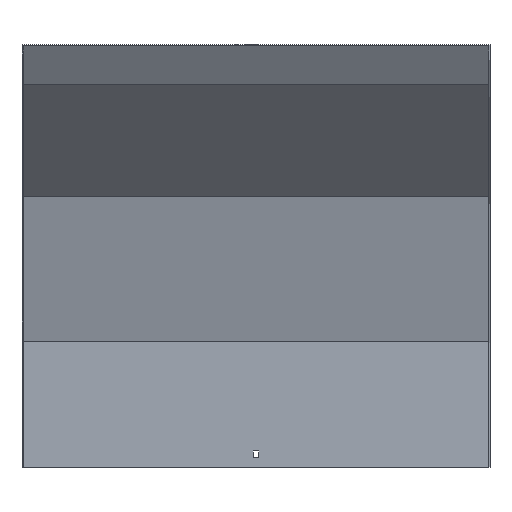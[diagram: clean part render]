
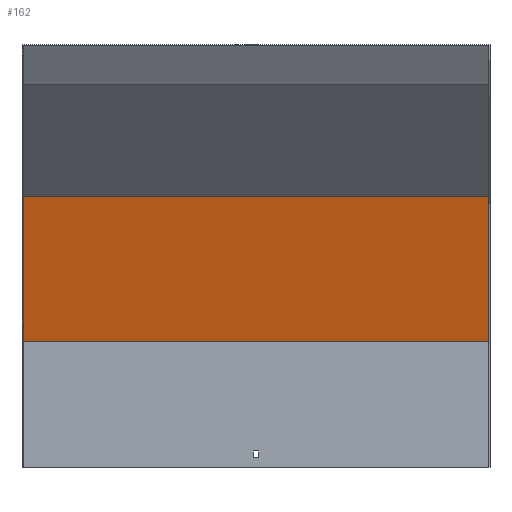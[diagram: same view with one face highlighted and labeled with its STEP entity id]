
A CAD part, front view. The second image highlights one B-rep face of the part: STEP entity #162.
In plain terms, the highlighted planar face has unit normal (0, -0.966, -0.259).
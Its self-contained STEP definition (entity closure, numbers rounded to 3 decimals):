
#13 = VERTEX_POINT ( 'NONE', #68 ) ;
#14 = AXIS2_PLACEMENT_3D ( 'NONE', #1092, #571, #312 ) ;
#39 = VERTEX_POINT ( 'NONE', #123 ) ;
#56 = PLANE ( 'NONE',  #14 ) ;
#68 = CARTESIAN_POINT ( 'NONE',  ( 300., -31.295, 348.273 ) ) ;
#74 = CARTESIAN_POINT ( 'NONE',  ( -300., 17.87, 164.788 ) ) ;
#123 = CARTESIAN_POINT ( 'NONE',  ( -300., -31.295, 348.273 ) ) ;
#140 = FACE_OUTER_BOUND ( 'NONE', #490, .T. ) ;
#162 = ADVANCED_FACE ( 'NONE', ( #140 ), #56, .T. ) ;
#176 = EDGE_CURVE ( 'NONE', #322, #448, #727, .T. ) ;
#205 = EDGE_CURVE ( 'NONE', #322, #13, #906, .T. ) ;
#282 = VECTOR ( 'NONE', #853, 1000. ) ;
#289 = ORIENTED_EDGE ( 'NONE', *, *, #542, .T. ) ;
#294 = CARTESIAN_POINT ( 'NONE',  ( 301.5, -31.295, 348.273 ) ) ;
#312 = DIRECTION ( 'NONE',  ( 0., 0.259, -0.966 ) ) ;
#322 = VERTEX_POINT ( 'NONE', #1107 ) ;
#382 = CARTESIAN_POINT ( 'NONE',  ( 301.5, 18.5, 162.436 ) ) ;
#393 = CARTESIAN_POINT ( 'NONE',  ( 300., 17.87, 164.788 ) ) ;
#448 = VERTEX_POINT ( 'NONE', #967 ) ;
#490 = EDGE_LOOP ( 'NONE', ( #946, #964, #835, #289 ) ) ;
#532 = VECTOR ( 'NONE', #558, 1000. ) ;
#542 = EDGE_CURVE ( 'NONE', #13, #39, #920, .T. ) ;
#558 = DIRECTION ( 'NONE',  ( -1., 0., 0. ) ) ;
#571 = DIRECTION ( 'NONE',  ( 0., -0.966, -0.259 ) ) ;
#721 = DIRECTION ( 'NONE',  ( 0., -0.259, 0.966 ) ) ;
#727 = LINE ( 'NONE', #382, #901 ) ;
#835 = ORIENTED_EDGE ( 'NONE', *, *, #205, .T. ) ;
#853 = DIRECTION ( 'NONE',  ( 0., -0.259, 0.966 ) ) ;
#901 = VECTOR ( 'NONE', #1104, 1000. ) ;
#906 = LINE ( 'NONE', #393, #990 ) ;
#920 = LINE ( 'NONE', #294, #532 ) ;
#946 = ORIENTED_EDGE ( 'NONE', *, *, #1097, .F. ) ;
#964 = ORIENTED_EDGE ( 'NONE', *, *, #176, .F. ) ;
#967 = CARTESIAN_POINT ( 'NONE',  ( -300., 18.5, 162.436 ) ) ;
#990 = VECTOR ( 'NONE', #721, 1000. ) ;
#1092 = CARTESIAN_POINT ( 'NONE',  ( 301.5, 17.87, 164.788 ) ) ;
#1097 = EDGE_CURVE ( 'NONE', #448, #39, #1109, .T. ) ;
#1104 = DIRECTION ( 'NONE',  ( -1., 0., 0. ) ) ;
#1107 = CARTESIAN_POINT ( 'NONE',  ( 300., 18.5, 162.436 ) ) ;
#1109 = LINE ( 'NONE', #74, #282 ) ;
